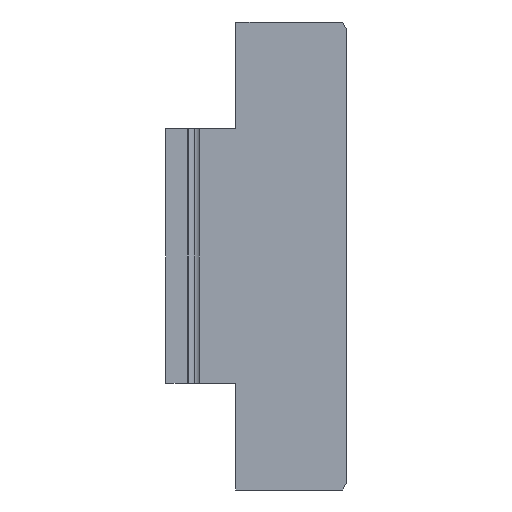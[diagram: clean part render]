
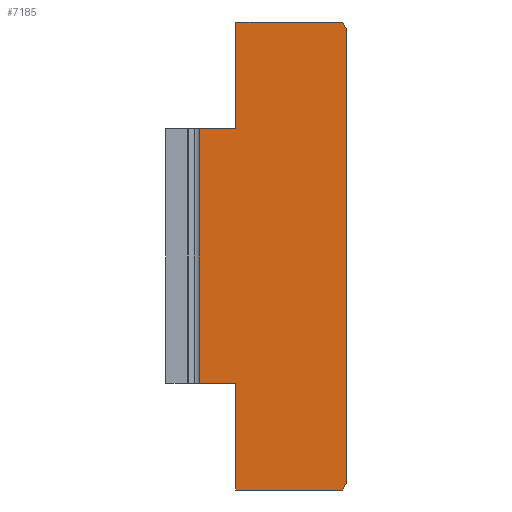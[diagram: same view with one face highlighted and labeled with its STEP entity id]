
A CAD part, left-side view. The second image highlights one B-rep face of the part: STEP entity #7185.
In plain terms, the highlighted planar face has unit normal (-1, 0, 0).
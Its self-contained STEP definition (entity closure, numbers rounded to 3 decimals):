
#62 = ORIENTED_EDGE ( 'NONE', *, *, #2513, .F. ) ;
#204 = EDGE_CURVE ( 'NONE', #9851, #1437, #9935, .T. ) ;
#416 = LINE ( 'NONE', #1003, #10215 ) ;
#645 = ORIENTED_EDGE ( 'NONE', *, *, #9073, .F. ) ;
#748 = CARTESIAN_POINT ( 'NONE',  ( -20.5, 0., -19. ) ) ;
#790 = CARTESIAN_POINT ( 'NONE',  ( -20.5, -21.423, 35. ) ) ;
#967 = DIRECTION ( 'NONE',  ( 0., -1., 0. ) ) ;
#1003 = CARTESIAN_POINT ( 'NONE',  ( -20.5, -21.423, 35. ) ) ;
#1008 = CARTESIAN_POINT ( 'NONE',  ( -20.5, -5.5, 35. ) ) ;
#1114 = VERTEX_POINT ( 'NONE', #10469 ) ;
#1437 = VERTEX_POINT ( 'NONE', #1847 ) ;
#1450 = DIRECTION ( 'NONE',  ( 0., -0.5, 0.866 ) ) ;
#1511 = VERTEX_POINT ( 'NONE', #2850 ) ;
#1756 = CARTESIAN_POINT ( 'NONE',  ( -20.5, -22., 35. ) ) ;
#1847 = CARTESIAN_POINT ( 'NONE',  ( -20.5, -5.5, -19. ) ) ;
#1861 = DIRECTION ( 'NONE',  ( 0., 0., 1. ) ) ;
#1956 = ORIENTED_EDGE ( 'NONE', *, *, #11624, .T. ) ;
#1958 = LINE ( 'NONE', #4639, #6760 ) ;
#2196 = VERTEX_POINT ( 'NONE', #6449 ) ;
#2221 = VERTEX_POINT ( 'NONE', #3588 ) ;
#2498 = VECTOR ( 'NONE', #6597, 1000. ) ;
#2513 = EDGE_CURVE ( 'NONE', #7863, #5345, #11948, .T. ) ;
#2786 = EDGE_CURVE ( 'NONE', #8765, #1437, #9136, .T. ) ;
#2850 = CARTESIAN_POINT ( 'NONE',  ( -20.5, -21.423, -35. ) ) ;
#2948 = CARTESIAN_POINT ( 'NONE',  ( -20.5, -5.5, 35. ) ) ;
#2989 = DIRECTION ( 'NONE',  ( 0., 0., -1. ) ) ;
#3294 = EDGE_CURVE ( 'NONE', #2196, #7863, #6142, .T. ) ;
#3349 = ORIENTED_EDGE ( 'NONE', *, *, #7988, .T. ) ;
#3588 = CARTESIAN_POINT ( 'NONE',  ( -20.5, 0., 19. ) ) ;
#3765 = VECTOR ( 'NONE', #1450, 1000. ) ;
#3860 = DIRECTION ( 'NONE',  ( 1., 0., 0. ) ) ;
#4086 = DIRECTION ( 'NONE',  ( 0., 0.5, 0.866 ) ) ;
#4459 = EDGE_CURVE ( 'NONE', #9967, #5345, #416, .T. ) ;
#4610 = PLANE ( 'NONE',  #11236 ) ;
#4639 = CARTESIAN_POINT ( 'NONE',  ( -20.5, -22., 19. ) ) ;
#4640 = LINE ( 'NONE', #6792, #6883 ) ;
#4801 = VECTOR ( 'NONE', #1861, 1000. ) ;
#4806 = EDGE_CURVE ( 'NONE', #1511, #1114, #11656, .T. ) ;
#4818 = ORIENTED_EDGE ( 'NONE', *, *, #3294, .F. ) ;
#4937 = CARTESIAN_POINT ( 'NONE',  ( -20.5, -5.5, 35. ) ) ;
#5137 = DIRECTION ( 'NONE',  ( 0., 0., -1. ) ) ;
#5345 = VERTEX_POINT ( 'NONE', #790 ) ;
#5456 = ORIENTED_EDGE ( 'NONE', *, *, #2786, .T. ) ;
#5479 = CARTESIAN_POINT ( 'NONE',  ( -20.5, -22., 34. ) ) ;
#5574 = DIRECTION ( 'NONE',  ( 0., 1., 0. ) ) ;
#5953 = ORIENTED_EDGE ( 'NONE', *, *, #10536, .T. ) ;
#6142 = LINE ( 'NONE', #1008, #4801 ) ;
#6316 = CARTESIAN_POINT ( 'NONE',  ( -20.5, -22., -34. ) ) ;
#6449 = CARTESIAN_POINT ( 'NONE',  ( -20.5, -5.5, 19. ) ) ;
#6597 = DIRECTION ( 'NONE',  ( 0., 0., 1. ) ) ;
#6645 = CARTESIAN_POINT ( 'NONE',  ( -20.5, -22., 35. ) ) ;
#6760 = VECTOR ( 'NONE', #11425, 1000. ) ;
#6792 = CARTESIAN_POINT ( 'NONE',  ( -20.5, -22., -35. ) ) ;
#6810 = CARTESIAN_POINT ( 'NONE',  ( -20.5, 0., 35. ) ) ;
#6883 = VECTOR ( 'NONE', #11574, 1000. ) ;
#7057 = ORIENTED_EDGE ( 'NONE', *, *, #4459, .T. ) ;
#7134 = CARTESIAN_POINT ( 'NONE',  ( -20.5, -22., 35. ) ) ;
#7147 = DIRECTION ( 'NONE',  ( 0., -1., 0. ) ) ;
#7185 = ADVANCED_FACE ( 'NONE', ( #8191 ), #4610, .F. ) ;
#7190 = VECTOR ( 'NONE', #967, 1000. ) ;
#7404 = ORIENTED_EDGE ( 'NONE', *, *, #204, .F. ) ;
#7863 = VERTEX_POINT ( 'NONE', #4937 ) ;
#7988 = EDGE_CURVE ( 'NONE', #9851, #1511, #4640, .T. ) ;
#8191 = FACE_OUTER_BOUND ( 'NONE', #9552, .T. ) ;
#8285 = VECTOR ( 'NONE', #2989, 1000. ) ;
#8293 = ORIENTED_EDGE ( 'NONE', *, *, #4806, .T. ) ;
#8685 = VECTOR ( 'NONE', #5137, 1000. ) ;
#8765 = VERTEX_POINT ( 'NONE', #748 ) ;
#8872 = CARTESIAN_POINT ( 'NONE',  ( -20.5, -5.5, -35. ) ) ;
#9061 = LINE ( 'NONE', #6810, #8285 ) ;
#9073 = EDGE_CURVE ( 'NONE', #9967, #1114, #10200, .T. ) ;
#9136 = LINE ( 'NONE', #10953, #11908 ) ;
#9552 = EDGE_LOOP ( 'NONE', ( #4818, #1956, #5953, #5456, #7404, #3349, #8293, #645, #7057, #62 ) ) ;
#9851 = VERTEX_POINT ( 'NONE', #8872 ) ;
#9935 = LINE ( 'NONE', #2948, #2498 ) ;
#9967 = VERTEX_POINT ( 'NONE', #5479 ) ;
#10200 = LINE ( 'NONE', #7134, #8685 ) ;
#10215 = VECTOR ( 'NONE', #4086, 1000. ) ;
#10469 = CARTESIAN_POINT ( 'NONE',  ( -20.5, -22., -34. ) ) ;
#10536 = EDGE_CURVE ( 'NONE', #2221, #8765, #9061, .T. ) ;
#10953 = CARTESIAN_POINT ( 'NONE',  ( -20.5, -22., -19. ) ) ;
#11236 = AXIS2_PLACEMENT_3D ( 'NONE', #1756, #3860, #5574 ) ;
#11425 = DIRECTION ( 'NONE',  ( 0., 1., 0. ) ) ;
#11574 = DIRECTION ( 'NONE',  ( 0., -1., 0. ) ) ;
#11624 = EDGE_CURVE ( 'NONE', #2196, #2221, #1958, .T. ) ;
#11656 = LINE ( 'NONE', #6316, #3765 ) ;
#11908 = VECTOR ( 'NONE', #7147, 1000. ) ;
#11948 = LINE ( 'NONE', #6645, #7190 ) ;
